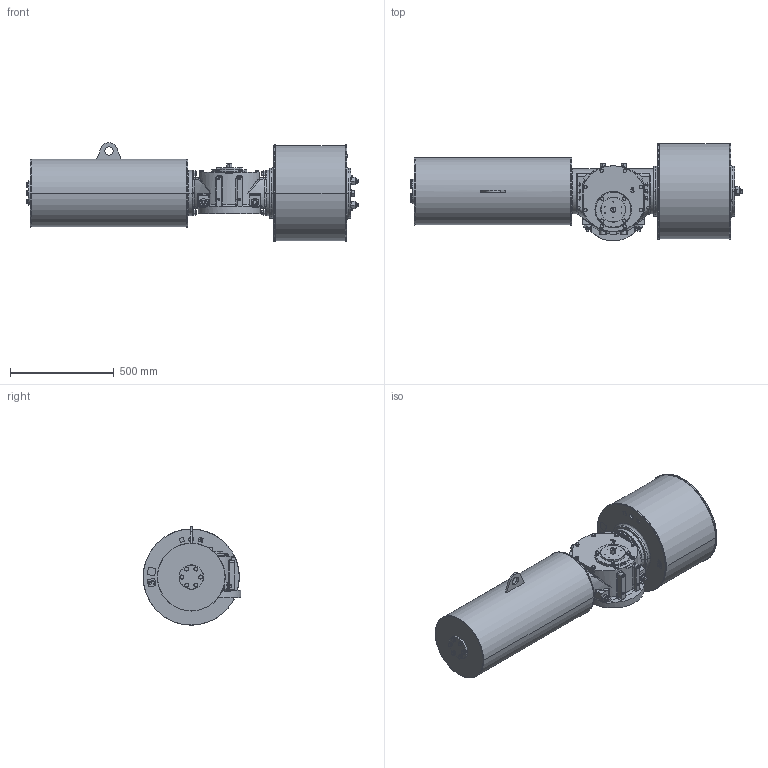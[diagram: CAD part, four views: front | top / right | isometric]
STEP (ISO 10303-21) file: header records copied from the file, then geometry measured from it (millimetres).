
FILE_DESCRIPTION (( 'STEP AP203' ), '1' );
FILE_NAME ('VTS3-450-SR-FO.STEP', '2022-04-19T03:11:11', ( '' ), ( '' ), 'SwSTEP 2.0', 'SolidWorks 2020', '' );
FILE_SCHEMA (( 'CONFIG_CONTROL_DESIGN' ));
Length unit declared in the file: millimetre
Products named in the file (1): VTS3-450-SR-FO
Bounding box: 1598.78 x 471 x 474.5 mm (x, y, z)
Volume: 141611193.7 mm3; surface area: 2604733.2 mm2
Topology: 16 solids, 19 shells, 2025 faces, 5191 edges, 3277 vertices
Faces by surface type: plane 812, cylinder 599, cone 471, bspline 143
Entity records: 76841 total; most frequent: CARTESIAN_POINT 29069, ORIENTED_EDGE 10252, DIRECTION 9729, EDGE_CURVE 5126, AXIS2_PLACEMENT_3D 3837, VERTEX_POINT 3277, EDGE_LOOP 2245, LINE 2055
